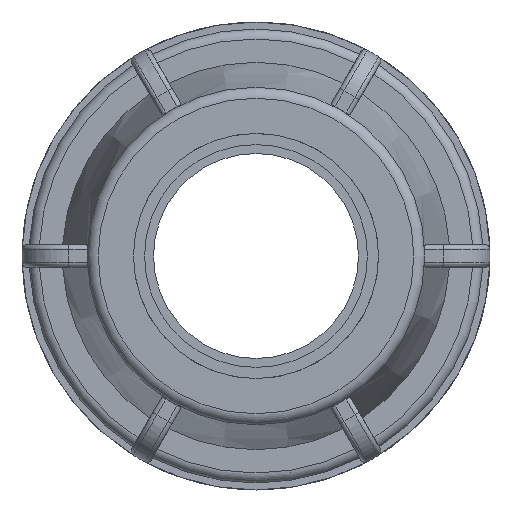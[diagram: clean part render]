
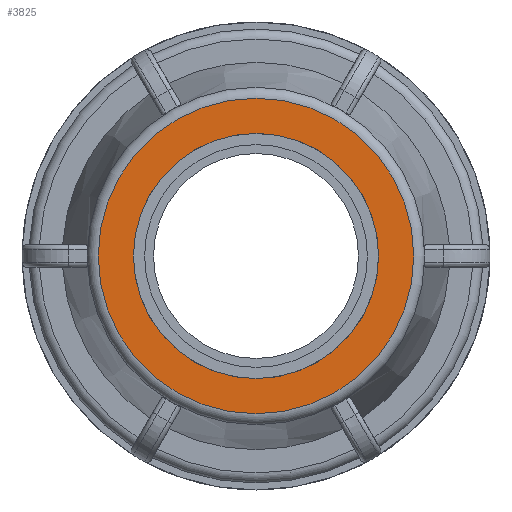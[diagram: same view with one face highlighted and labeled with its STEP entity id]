
A CAD part, left-side view. The second image highlights one B-rep face of the part: STEP entity #3825.
In plain terms, the highlighted planar face has unit normal (-1, 0, 0).
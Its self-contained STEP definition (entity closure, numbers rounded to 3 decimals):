
#204=FACE_BOUND('',#687,.T.);
#269=PLANE('',#4188);
#439=FACE_OUTER_BOUND('',#686,.T.);
#686=EDGE_LOOP('',(#3117));
#687=EDGE_LOOP('',(#3118));
#1388=CIRCLE('',#4185,14.161);
#1390=CIRCLE('',#4189,11.);
#1707=VERTEX_POINT('',#6826);
#1709=VERTEX_POINT('',#6832);
#2204=EDGE_CURVE('',#1707,#1707,#1388,.T.);
#2206=EDGE_CURVE('',#1709,#1709,#1390,.T.);
#3117=ORIENTED_EDGE('',*,*,#2204,.F.);
#3118=ORIENTED_EDGE('',*,*,#2206,.T.);
#3825=ADVANCED_FACE('',(#439,#204),#269,.F.);
#4185=AXIS2_PLACEMENT_3D('',#6827,#5033,#5034);
#4188=AXIS2_PLACEMENT_3D('',#6831,#5039,#5040);
#4189=AXIS2_PLACEMENT_3D('',#6833,#5041,#5042);
#5033=DIRECTION('center_axis',(1.,0.,0.));
#5034=DIRECTION('ref_axis',(0.,-1.,0.));
#5039=DIRECTION('center_axis',(1.,0.,0.));
#5040=DIRECTION('ref_axis',(0.,0.,-1.));
#5041=DIRECTION('center_axis',(1.,0.,0.));
#5042=DIRECTION('ref_axis',(0.,0.,-1.));
#6826=CARTESIAN_POINT('',(-45.,14.161,0.));
#6827=CARTESIAN_POINT('Origin',(-45.,0.,0.));
#6831=CARTESIAN_POINT('Origin',(-45.,11.,0.));
#6832=CARTESIAN_POINT('',(-45.,11.,0.));
#6833=CARTESIAN_POINT('Origin',(-45.,0.,0.));
